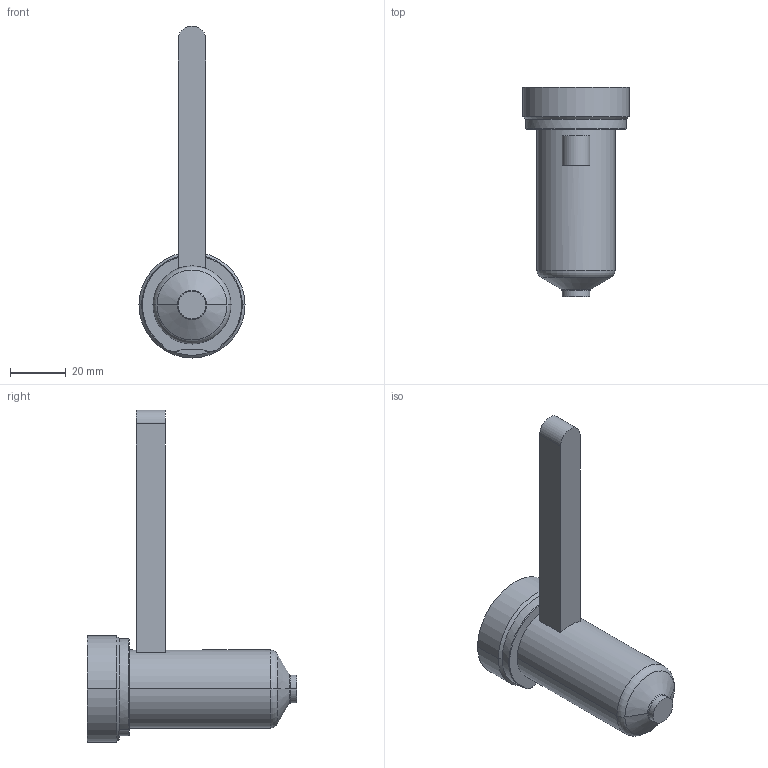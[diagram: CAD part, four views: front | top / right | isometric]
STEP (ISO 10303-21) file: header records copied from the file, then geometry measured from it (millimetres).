
FILE_DESCRIPTION((''),'2;1');
FILE_NAME('EO06_VG-ST_STD_060_COT','2024-02-19T12:37:06',('sundharh'),(''),'CREO PARAMETRIC BY PTC INC, 2023154','CREO PARAMETRIC BY PTC INC, 2023154','');
FILE_SCHEMA(('CONFIG_CONTROL_DESIGN'));
Length unit declared in the file: millimetre
Products named in the file (1): EO06_VG-ST_STD_060_COT
Bounding box: 38 x 75 x 119 mm (x, y, z)
Volume: 59395 mm3; surface area: 12173 mm2
Topology: 1 solids, 1 shells, 31 faces, 67 edges, 40 vertices
Faces by surface type: cylinder 11, plane 9, torus 7, cone 4
Entity records: 963 total; most frequent: CARTESIAN_POINT 230, DIRECTION 159, ORIENTED_EDGE 134, AXIS2_PLACEMENT_3D 67, EDGE_CURVE 67, VERTEX_POINT 40, CIRCLE 36, EDGE_LOOP 33
